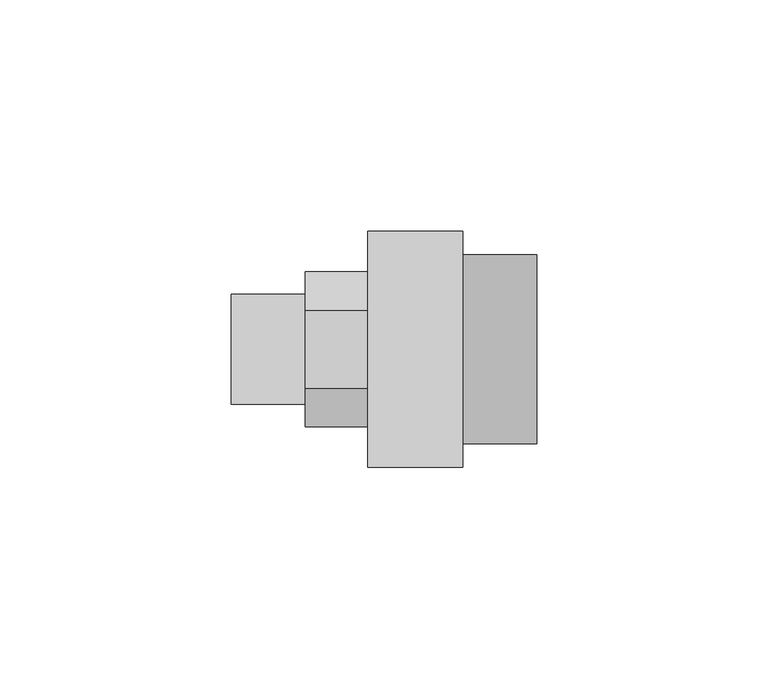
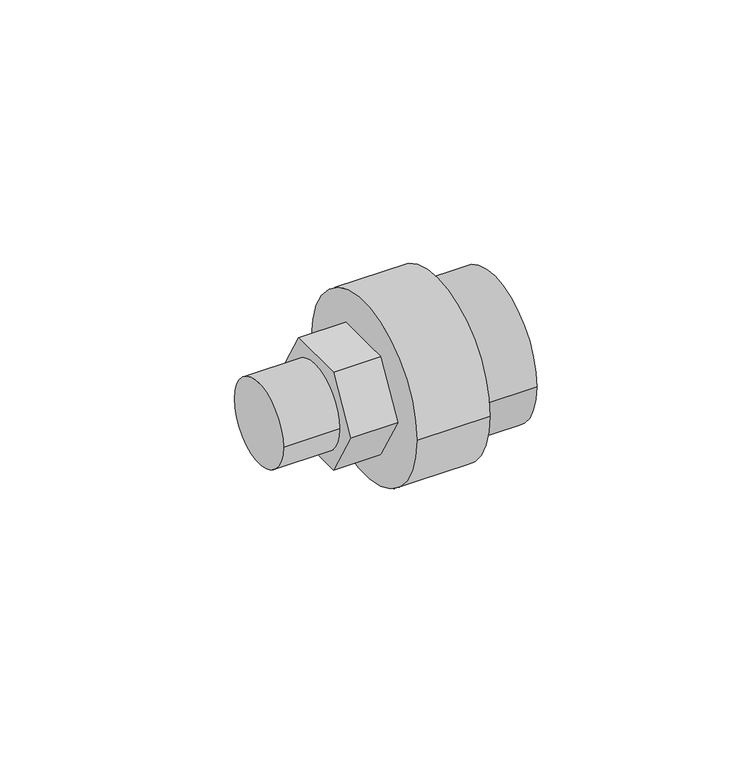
"""IFC4 building model written with IfcOpenShell, lengths in millimetres: pipe fitting geometry, 01011279 : Manchons union pour piscines FxM."""

from ifc_helpers import new_model, si_unit, point, frame, origin, origin_2d, place, context, project, spatial, polyline, circle_curve, trimmed, segment, composite_curve, outline, extrude, source, transform, mapped, element, save


def pipe_fitting_5fa930ed(model_context):
    return source(origin(), model_context, "Body", "SweptSolid", [
        extrude(outline(composite_curve([segment(trimmed(circle_curve(origin_2d(), 25.5), [point((25.5, 0.0))], [point((-25.5, 0.0))], False, "CARTESIAN"), True, "CONTINUOUS"), segment(trimmed(circle_curve(origin_2d(), 25.5), [point((-25.5, 0.0))], [point((25.5, 0.0))], False, "CARTESIAN"), True, "CONTINUOUS")], self_intersect=False)), frame((-13.5, 0.0, 0.0), z_axis=(1.0, 0.0, 0.0), x_axis=(0.0, 1.0, 0.0)), (0.0, 0.0, 1.0), 20.5),
        extrude(outline(polyline([(-8.3715789, 14.5), (8.3715789, 14.5), (16.7431578, 0.0), (8.3715789, -14.5), (-8.3715789, -14.5), (-16.7431578, 0.0), (-8.3715789, 14.5)])), frame((-27.0, 0.0, 0.0), z_axis=(1.0, 0.0, 0.0), x_axis=(0.0, 1.0, 0.0)), (0.0, 0.0, 1.0), 13.5),
        extrude(outline(composite_curve([segment(trimmed(circle_curve(origin_2d(), 11.875), [point((11.875, 0.0))], [point((-11.875, 0.0))], False, "CARTESIAN"), True, "CONTINUOUS"), segment(trimmed(circle_curve(origin_2d(), 11.875), [point((-11.875, 0.0))], [point((11.875, 0.0))], False, "CARTESIAN"), True, "CONTINUOUS")], self_intersect=False)), frame((-43.0, 0.0, 0.0), z_axis=(1.0, 0.0, 0.0), x_axis=(0.0, 1.0, 0.0)), (0.0, 0.0, 1.0), 16.0),
        extrude(outline(composite_curve([segment(trimmed(circle_curve(origin_2d(), 20.4), [point((-20.4, 0.0))], [point((20.4, 0.0))], False, "CARTESIAN"), True, "CONTINUOUS"), segment(trimmed(circle_curve(origin_2d(), 20.4), [point((20.4, 0.0))], [point((-20.4, 0.0))], False, "CARTESIAN"), True, "CONTINUOUS")], self_intersect=False)), frame((7.0, 0.0, 0.0), z_axis=(1.0, 0.0, 0.0), x_axis=(0.0, 1.0, 0.0)), (0.0, 0.0, 1.0), 16.0),
    ])


if __name__ == "__main__":
    model = new_model("IFC4")
    model_context = context("Model", 3, world=origin())
    ifc_project = project(units=[si_unit("LENGTHUNIT", "METRE", prefix="MILLI")], contexts=[model_context])
    site = spatial("IfcSite", under=ifc_project)
    building = spatial("IfcBuilding", under=site)
    placement = place(None, origin())
    pipe_fitting_shape = pipe_fitting_5fa930ed(model_context)
    element("IfcPipeFitting", 1, ObjectType="01011279 : Manchons union pour piscines FxM", at=placement, inside=building, context=model_context, shape_type="MappedRepresentation", body=[
        mapped(pipe_fitting_shape, transform((0.0, 0.0, 0.0), x_axis=(1.0, 0.0, 0.0), y_axis=(0.0, 1.0, 0.0), z_axis=(0.0, 0.0, 1.0))),
    ])
    save(model, "model.ifc")
